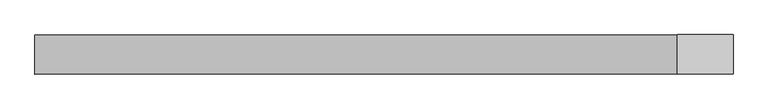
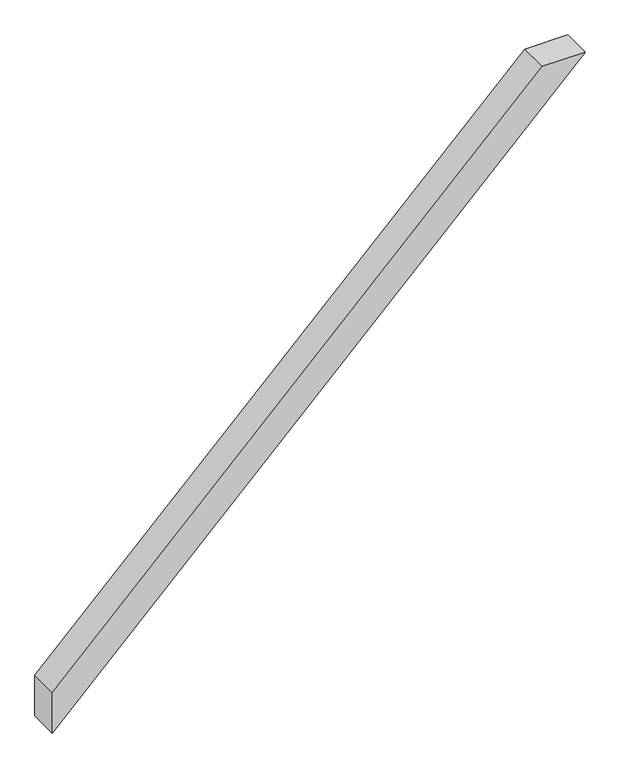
"""IFC4 building model written with IfcOpenShell, lengths in millimetres: proxy geometry, Modelos genéricos 23 : Modelos genéricos 23."""

from ifc_helpers import new_model, si_unit, frame, origin, place, context, project, spatial, polyline, outline, extrude, source, transform, mapped, element, save


def generic_models_8aa0a59f(model_context):
    return source(origin(), model_context, "Body", "SweptSolid", [
        extrude(outline(polyline([(4220.0, -11556.7628093), (4220.0, -11641.615623), (3244.8528137, -12616.7628093), (3160.0, -12616.7628093), (4220.0, -11556.7628093)])), frame((0.0, 1918.6238165, 0.0), z_axis=(0.0, 1.0, 0.0), x_axis=(0.0, 0.0, 1.0)), (0.0, 0.0, 1.0), 60.0),
    ])


if __name__ == "__main__":
    model = new_model("IFC4")
    model_context = context("Model", 3, world=origin())
    ifc_project = project(units=[si_unit("LENGTHUNIT", "METRE", prefix="MILLI")], contexts=[model_context])
    site = spatial("IfcSite", under=ifc_project)
    building = spatial("IfcBuilding", under=site)
    placement = place(None, origin())
    generic_models_shape = generic_models_8aa0a59f(model_context)
    element("IfcBuildingElementProxy", 1, Name="Modelos genéricos 23 : Modelos genéricos 23", ObjectType="Modelos genéricos 23 : Modelos genéricos 23", at=placement, inside=building, context=model_context, shape_type="MappedRepresentation", body=[
        mapped(generic_models_shape, transform((0.0, 0.0, 0.0), x_axis=(1.0, 0.0, 0.0), y_axis=(0.0, 1.0, 0.0), z_axis=(0.0, 0.0, 1.0))),
    ])
    save(model, "model.ifc")
